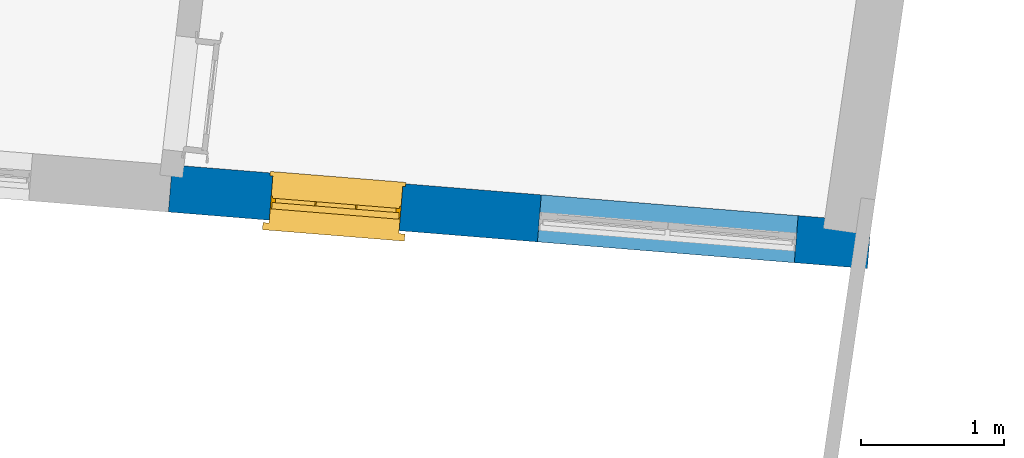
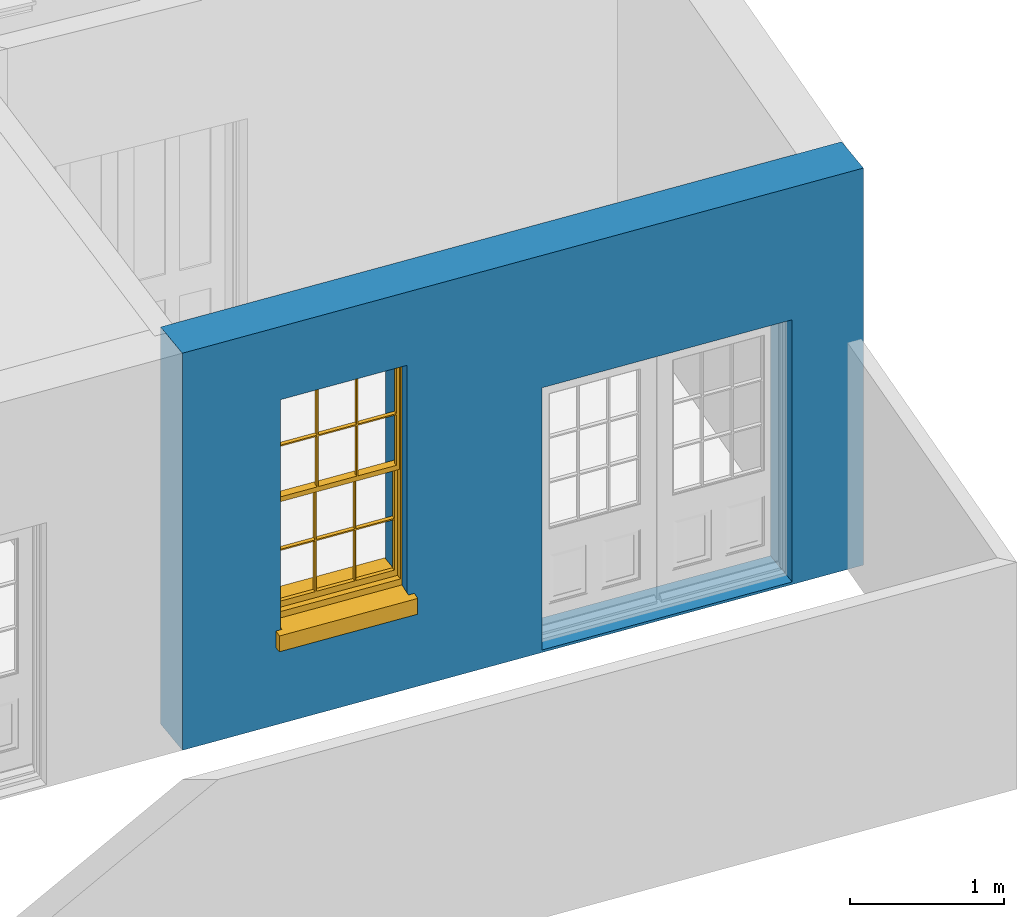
# One storey, part 2 of 8: 1 wall, 1 window, 2 openings.
"""IFC4 building model written with IfcOpenShell, lengths in metres."""

from ifc_helpers import new_model, si_unit, frame, origin, origin_with_axes, place, context, subcontext, project, spatial, polyline, outline, extrude, faceted_brep, source, transform, mapped, material, layer, layer_set, layer_usage, type_object, type_shapes, element, fill, save


model = new_model("IFC4")

# Units and contexts
model_context = context("Model", 3, world=origin_with_axes())
body_context = subcontext(model_context, "Body", "Model", "MODEL_VIEW")
ifc_project = project(units=[si_unit("PLANEANGLEUNIT", "RADIAN"), si_unit("MASSUNIT", "GRAM", prefix="KILO"), si_unit("FORCEUNIT", "NEWTON", prefix="KILO"), si_unit("LENGTHUNIT", "METRE"), si_unit("AREAUNIT", "SQUARE_METRE"), si_unit("VOLUMEUNIT", "CUBIC_METRE")], contexts=[model_context, model_context])

# Sites, building, storey
site_1_placement = place(None, origin_with_axes())
site_1 = spatial("IfcSite", under=ifc_project, at=site_1_placement, Name="Tamar")
site_2_placement = place(site_1_placement, origin_with_axes())
site_2 = spatial("IfcSite", under=site_1, at=site_2_placement, Name="Site plot-31", CompositionType="ELEMENT")
building_placement = place(None, origin_with_axes())
building = spatial("IfcBuilding", under=site_2, at=building_placement, Name="Building plot-31", CompositionType="ELEMENT")
storey_placement = place(None, frame((0.0, 0.0, 25.5), z_axis=(0.0, 0.0, 1.0), x_axis=(1.0, 0.0, 0.0)))
storey = spatial("IfcBuildingStorey", under=building, at=storey_placement, Name="plot-31 0", CompositionType="ELEMENT", Elevation=25.5)

# Wall, openings, window
ifc_material = material(Name="Masonry")
ifc_layer = layer(ifc_material, 0.33, ventilated=False)
ifc_layer_set = layer_set([ifc_layer], Name="exterior_0.08_0.25")
ifc_layer_usage = layer_usage(ifc_layer_set, "AXIS2", "POSITIVE", -0.25)
wall_type = type_object("IfcWallType", Name="exterior_0.08_0.25", PredefinedType="SOLIDWALL", material=ifc_layer_set)
wall_placement = place(storey_placement, frame((295.316844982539, 257.653933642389, 0.0), z_axis=(0.0, 0.0, 1.0), x_axis=(0.99673152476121, -0.0807853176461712, 0.0)))
wall = element("IfcWall", 1, at=wall_placement, inside=storey, type_object=wall_type, material=ifc_layer_usage, Name="exterior", context=body_context, shape_type="SweptSolid", body=[
    extrude(outline(polyline([(-6.79854810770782e-15, 0.080000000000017), (-4.88957373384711e-14, -0.24999999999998), (4.8981688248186, -0.249999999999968), (4.89816882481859, 0.0800000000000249), (-6.79854810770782e-15, 0.080000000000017)])), origin_with_axes(), (0.0, 0.0, 1.0), 3.15),
])
opening_1_placement = place(wall_placement, frame((0.707042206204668, 0.0, 0.75)))
opening_1 = element("IfcOpeningElement", 2, at=opening_1_placement, cuts=wall, Name="My Opening", ObjectType="Opening", context=body_context, shape_type="SweptSolid", body=[
    extrude(outline(polyline([(0.0, -0.269999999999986), (0.909999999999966, -0.270000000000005), (0.909999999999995, 1.09999999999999), (2.87547763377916e-14, 1.10000000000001), (0.0, -0.269999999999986)])), origin_with_axes(), (0.0, 0.0, 1.0), 1.82),
])
opening_2_placement = place(wall_placement, frame((2.58612661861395, 0.0, 0.0199999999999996)))
element("IfcOpeningElement", 3, at=opening_2_placement, cuts=wall, Name="My Opening", ObjectType="Opening", context=body_context, shape_type="SweptSolid", body=[
    extrude(outline(polyline([(0.0, -0.270000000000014), (1.80000000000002, -0.269999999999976), (1.80000000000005, 1.10000000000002), (2.88657986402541e-14, 1.09999999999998), (0.0, -0.270000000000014)])), origin_with_axes(), (0.0, 0.0, 1.0), 2.08),
])
window_type = type_object("IfcWindowType", Name="sash_big", PartitioningType="DOUBLE_PANEL_HORIZONTAL", PredefinedType="NOTDEFINED")
shared_shape = source(origin(), body_context, "Body", "Brep", [
    faceted_brep([(0.033125, 0.145, 0.975209), (0.01, 0.145, 0.975209), (0.033125, 0.145, 1.376042), (0.876875, 0.145, 0.975209), (0.876875, 0.145, 1.376042), (0.9, 0.145, 0.975209), (0.876875, 0.145, 1.386042), (0.876875, 0.145, 1.786875), (0.9, 0.145, 1.81), (0.033125, 0.145, 1.786875), (0.033125, 0.145, 1.386042), (0.01, 0.145, 1.81), (0.876875, 0.115, 1.376042), (0.876875, 0.115, 0.975209), (0.9, 0.115, 0.937083), (0.033125, 0.115, 1.786875), (0.01, 0.115, 1.81), (0.033125, 0.115, 1.386042), (0.01, 0.115, 0.937083), (0.033125, 0.115, 0.975209), (0.033125, 0.115, 1.376042), (0.876875, 0.115, 1.786875), (0.876875, 0.115, 1.386042), (0.9, 0.115, 1.81), (0.033125, 0.145, 0.937083), (0.01, 0.145, 0.937083), (0.033125, 0.145, 0.53625), (0.876875, 0.145, 0.937083), (0.876875, 0.145, 0.53625), (0.9, 0.145, 0.937083), (0.876875, 0.145, 0.52625), (0.876875, 0.145, 0.125417), (0.9, 0.145, 0.077167), (0.033125, 0.145, 0.125417), (0.033125, 0.145, 0.52625), (0.01, 0.145, 0.077167), (-0.0425, 0.0, 0.01), (-0.0425, -0.05, 0.001667), (0.0, 0.0, 0.01), (0.9525, 0.0, 0.01), (0.91, 0.0, 0.01), (0.9525, -0.05, 0.001667), (-0.02, 0.33, 0.077167), (0.0, 0.33, 0.077167), (-0.02, 0.36, 0.077167), (0.0, 0.19, 0.077167), (0.01, 0.19, 0.077167), (0.91, 0.19, 0.077167), (0.91, 0.33, 0.077167), (0.9, 0.19, 0.077167), (0.93, 0.33, 0.077167), (0.93, 0.36, 0.077167), (0.01, 0.175, 0.975209), (0.9, 0.175, 0.975209), (0.876875, 0.175, 0.125417), (0.876875, 0.175, 0.52625), (0.9, 0.175, 0.077167), (0.876875, 0.175, 0.53625), (0.876875, 0.175, 0.937083), (0.033125, 0.175, 0.125417), (0.01, 0.175, 0.077167), (0.033125, 0.175, 0.52625), (0.033125, 0.175, 0.937083), (0.033125, 0.175, 0.53625), (-0.02, 0.33, 0.052167), (-0.02, 0.36, 0.052167), (0.93, 0.36, 0.052167), (0.93, 0.33, 0.052167), (0.91, 0.33, 0.052167), (0.0, 0.33, 0.052167), (0.91, 0.1, 0.026667), (0.0, 0.1, 0.026667), (-0.0425, -0.05, -0.123333), (0.9525, -0.05, -0.123333), (-0.0425, 0.0, -0.123333), (0.9525, 0.0, -0.123333), (0.01, 0.19, 1.81), (0.9, 0.19, 1.81), (0.0, 0.19, 1.82), (0.91, 0.19, 1.82), (0.01, 0.1, 0.077167), (0.9, 0.1, 0.077167), (0.592292, 0.145, 0.125417), (0.592292, 0.175, 0.125417), (0.317708, 0.175, 0.125417), (0.317708, 0.145, 0.125417), (0.592292, 0.145, 0.53625), (0.317708, 0.145, 0.53625), (0.317708, 0.145, 0.52625), (0.592292, 0.145, 0.52625), (0.592292, 0.175, 0.53625), (0.317708, 0.175, 0.53625), (0.592292, 0.115, 1.386042), (0.592292, 0.145, 1.386042), (0.317708, 0.145, 1.386042), (0.317708, 0.115, 1.386042), (0.317708, 0.115, 1.376042), (0.592292, 0.115, 1.376042), (0.317708, 0.145, 1.376042), (0.592292, 0.145, 1.376042), (0.602292, 0.115, 1.376042), (0.592292, 0.115, 0.975209), (0.602292, 0.115, 0.975209), (0.602292, 0.145, 0.975209), (0.592292, 0.145, 0.975209), (0.602292, 0.145, 1.376042), (0.602292, 0.175, 0.53625), (0.602292, 0.145, 0.53625), (0.317708, 0.175, 0.52625), (0.307708, 0.175, 0.125417), (0.307708, 0.175, 0.52625), (0.602292, 0.175, 0.52625), (0.602292, 0.175, 0.125417), (0.592292, 0.175, 0.52625), (0.307708, 0.175, 0.53625), (0.317708, 0.175, 0.937083), (0.307708, 0.175, 0.937083), (0.602292, 0.175, 0.937083), (0.592292, 0.175, 0.937083), (0.307708, 0.145, 0.52625), (0.307708, 0.145, 0.125417), (0.307708, 0.145, 0.53625), (0.307708, 0.145, 0.937083), (0.592292, 0.145, 0.937083), (0.317708, 0.145, 0.937083), (0.602292, 0.145, 0.937083), (0.602292, 0.145, 0.52625), (0.602292, 0.145, 0.125417), (0.307708, 0.115, 1.386042), (0.307708, 0.115, 1.376042), (0.307708, 0.115, 0.975209), (0.317708, 0.115, 0.975209), (0.317708, 0.115, 1.786875), (0.307708, 0.115, 1.786875), (0.602292, 0.115, 1.786875), (0.592292, 0.115, 1.786875), (0.602292, 0.115, 1.386042), (0.602292, 0.145, 1.386042), (0.307708, 0.145, 1.386042), (0.307708, 0.145, 1.786875), (0.317708, 0.145, 1.786875), (0.592292, 0.145, 1.786875), (0.602292, 0.145, 1.786875), (0.307708, 0.145, 1.376042), (0.317708, 0.145, 0.975209), (0.307708, 0.145, 0.975209), (0.91, 0.1, 1.82), (0.9, 0.1, 1.81), (0.01, 0.1, 1.81), (0.0, 0.1, 1.82), (0.91, 0.0, 0.0), (0.0, 0.0, 0.0), (0.91, 0.33, 0.0), (0.0, 0.33, 0.0)], [[[0, 1, 2]], [[3, 4, 5]], [[6, 7, 8]], [[9, 10, 11]], [[12, 13, 14]], [[15, 16, 17]], [[18, 19, 20]], [[21, 22, 23]], [[24, 25, 26]], [[27, 28, 29]], [[30, 31, 32]], [[33, 34, 35]], [[14, 27, 29]], [[25, 24, 18]], [[36, 37, 38]], [[39, 40, 41]], [[42, 43, 44]], [[45, 46, 43]], [[47, 48, 49]], [[50, 51, 48]], [[1, 0, 52]], [[5, 53, 3]], [[54, 55, 56]], [[57, 58, 53]], [[59, 60, 61]], [[62, 63, 52]], [[48, 43, 46, 49]], [[51, 44, 43, 48]], [[64, 42, 44, 65]], [[65, 44, 51, 66]], [[66, 51, 50, 67]], [[65, 66, 68, 69]], [[60, 56, 49, 46]], [[70, 71, 38, 40]], [[37, 41, 40, 38]], [[37, 72, 73, 41]], [[74, 75, 73, 72]], [[8, 11, 76, 77]], [[76, 78, 79, 77]], [[32, 35, 80, 81]], [[81, 80, 71, 70]], [[82, 83, 84, 85]], [[86, 87, 88, 89]], [[86, 90, 91, 87]], [[92, 93, 94, 95]], [[92, 95, 96, 97]], [[96, 98, 99, 97]], [[100, 97, 101, 102]], [[103, 104, 99, 105]], [[97, 99, 104, 101]], [[102, 103, 105, 100]], [[28, 57, 106, 107]], [[108, 84, 109, 110]], [[111, 112, 83, 113]], [[114, 110, 61, 63]], [[90, 113, 108, 91]], [[115, 91, 114, 116]], [[117, 106, 90, 118]], [[111, 106, 57, 55]], [[119, 110, 109, 120]], [[34, 61, 110, 119]], [[89, 113, 83, 82]], [[88, 108, 113, 89]], [[85, 84, 108, 88]], [[121, 114, 63, 26]], [[122, 116, 114, 121]], [[123, 118, 90, 86]], [[87, 91, 115, 124]], [[107, 106, 117, 125]], [[126, 111, 55, 30]], [[127, 112, 111, 126]], [[126, 30, 28, 107]], [[88, 119, 120, 85]], [[126, 89, 82, 127]], [[125, 123, 86, 107]], [[121, 26, 34, 119]], [[124, 122, 121, 87]], [[128, 17, 20, 129]], [[96, 129, 130, 131]], [[132, 133, 128, 95]], [[134, 135, 92, 136]], [[100, 12, 22, 136]], [[137, 6, 4, 105]], [[94, 138, 139, 140]], [[137, 93, 141, 142]], [[99, 98, 94, 93]], [[143, 2, 10, 138]], [[144, 145, 143, 98]], [[129, 143, 145, 130]], [[20, 2, 143, 129]], [[131, 144, 98, 96]], [[128, 138, 10, 17]], [[133, 139, 138, 128]], [[135, 141, 93, 92]], [[95, 94, 140, 132]], [[22, 6, 137, 136]], [[136, 137, 142, 134]], [[100, 105, 4, 12]], [[107, 86, 89, 126]], [[106, 111, 113, 90]], [[91, 108, 110, 114]], [[87, 121, 119, 88]], [[97, 100, 136, 92]], [[129, 96, 95, 128]], [[98, 143, 138, 94]], [[105, 99, 93, 137]], [[131, 101, 104, 144]], [[124, 115, 118, 123]], [[132, 140, 141, 135]], [[120, 109, 59, 33]], [[15, 9, 139, 133]], [[134, 142, 7, 21]], [[31, 54, 112, 127]], [[36, 74, 72, 37]], [[39, 41, 73, 75]], [[18, 14, 101, 131]], [[23, 16, 132, 135]], [[83, 56, 60, 84]], [[52, 53, 118, 115]], [[53, 52, 144, 104]], [[11, 8, 141, 140]], [[14, 18, 124, 123]], [[2, 1, 11, 10]], [[8, 5, 4, 6]], [[57, 53, 56, 55]], [[60, 52, 63, 61]], [[26, 25, 35, 34]], [[32, 29, 28, 30]], [[14, 23, 22, 12]], [[18, 20, 17, 16]], [[19, 0, 2, 20]], [[17, 10, 9, 15]], [[12, 4, 3, 13]], [[21, 7, 6, 22]], [[27, 58, 57, 28]], [[30, 55, 54, 31]], [[33, 59, 61, 34]], [[26, 63, 62, 24]], [[5, 8, 77, 53]], [[76, 11, 1, 52]], [[46, 45, 78, 76]], [[49, 77, 79, 47]], [[70, 146, 147, 81]], [[71, 80, 148, 149]], [[19, 130, 145, 0]], [[102, 13, 3, 103]], [[116, 122, 24, 62]], [[29, 32, 81, 14]], [[80, 35, 25, 18]], [[60, 46, 76, 52]], [[77, 49, 56, 53]], [[23, 14, 81, 147]], [[16, 148, 80, 18]], [[35, 85, 120]], [[120, 33, 35]], [[127, 82, 32]], [[32, 31, 127]], [[32, 82, 85, 35]], [[102, 101, 14]], [[14, 13, 102]], [[18, 131, 130]], [[130, 19, 18]], [[134, 21, 23]], [[23, 135, 134]], [[16, 15, 133]], [[133, 132, 16]], [[11, 140, 139]], [[139, 9, 11]], [[142, 141, 8]], [[8, 7, 142]], [[23, 147, 148, 16]], [[146, 149, 148, 147]], [[52, 115, 116]], [[116, 62, 52]], [[118, 53, 117]], [[58, 117, 53]], [[27, 125, 117, 58]], [[56, 83, 112]], [[112, 54, 56]], [[109, 84, 60]], [[60, 59, 109]], [[125, 27, 14]], [[14, 123, 125]], [[122, 124, 18]], [[18, 24, 122]], [[145, 144, 52]], [[52, 0, 145]], [[103, 3, 53]], [[53, 104, 103]], [[79, 78, 149, 146]], [[78, 45, 71, 149]], [[146, 70, 47, 79]], [[150, 75, 74, 151]], [[68, 66, 67]], [[48, 68, 67, 50]], [[69, 64, 65]], [[42, 64, 69, 43]], [[69, 68, 152, 153]], [[70, 68, 48, 47]], [[150, 152, 68, 70]], [[43, 69, 71, 45]], [[69, 153, 151, 71]], [[152, 150, 151, 153]], [[38, 151, 74, 36]], [[71, 151, 38]], [[39, 75, 150, 40]], [[40, 150, 70]]]),
])
type_shapes(window_type, [shared_shape])
window_placement = place(storey_placement, frame((295.999764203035, 257.327697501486, 0.75), z_axis=(0.0, 0.0, 1.0), x_axis=(0.907025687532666, -0.0735146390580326, 0.0)))
window = element("IfcWindow", 4, at=window_placement, inside=storey, type_object=window_type, Name="living outside window", OverallHeight=1.82, OverallWidth=0.91, context=body_context, shape_type="MappedRepresentation", body=[
    mapped(shared_shape, transform((0.0, 0.0, 0.0), scale=1.0)),
])
fill(opening_1, window)

save(model, "model.ifc")
